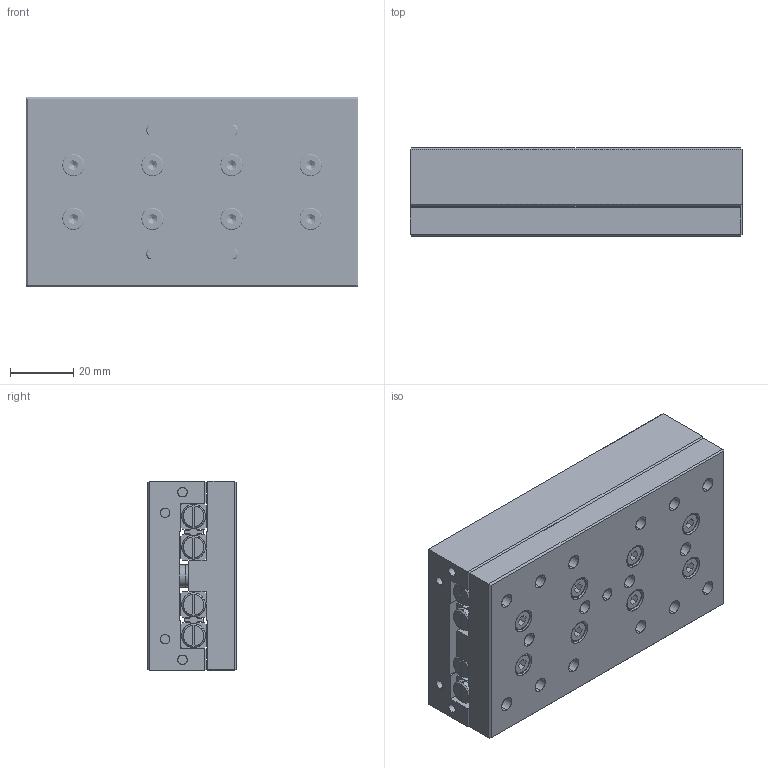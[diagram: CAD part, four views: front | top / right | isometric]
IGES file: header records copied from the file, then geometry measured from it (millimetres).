
Start section: SolidWorks IGES file using analytic representation for surfaces
Global section: file name: C:\Documents and Settings\IanO.IANOHOME\My Documents\Wix and Auto CAD Work\CAD Models\Parametric Models\Auto Models\L1020\L1020_IGES\Default.igs; native system: SolidWorks 2009; preprocessor: SolidWorks 2009; author: IanO; date: 110922.161827; units: millimetre
Bounding box: 105 x 28 x 60 mm (x, y, z)
Surface area: 68029.3 mm2 (no closed solid volume)
Topology: 0 solids, 0 shells, 1388 faces, 19592 edges, 19552 vertices
Faces by surface type: bspline 852, revolution 536
